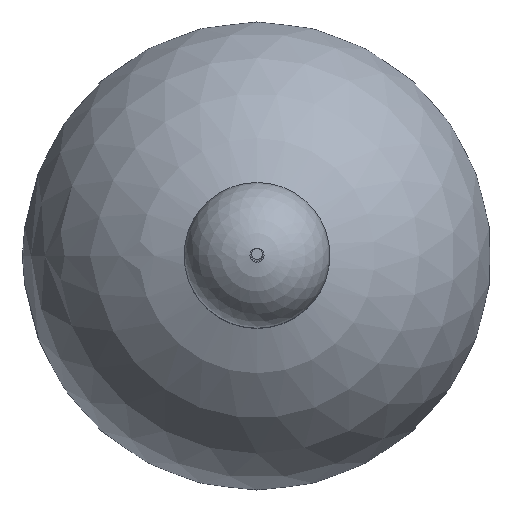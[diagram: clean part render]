
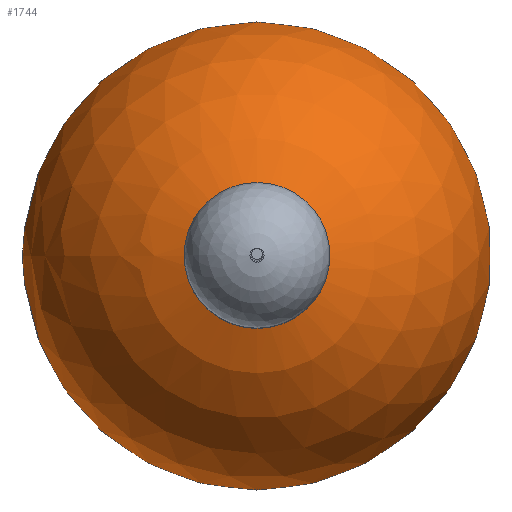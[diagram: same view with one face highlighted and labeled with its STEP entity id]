
A CAD part, top view. The second image highlights one B-rep face of the part: STEP entity #1744.
In plain terms, the highlighted spherical face has radius 95.25 mm.
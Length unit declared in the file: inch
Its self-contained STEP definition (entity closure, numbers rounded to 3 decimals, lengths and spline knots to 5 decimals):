
#516=FACE_OUTER_BOUND('',#615,.T.);
#615=EDGE_LOOP('',(#1226,#1227,#1228,#1229));
#718=CIRCLE('',#1888,1.06);
#719=CIRCLE('',#1889,1.06);
#720=CIRCLE('',#1891,3.75);
#776=VERTEX_POINT('',#2624);
#777=VERTEX_POINT('',#2625);
#778=VERTEX_POINT('',#2630);
#953=EDGE_CURVE('',#776,#777,#718,.T.);
#954=EDGE_CURVE('',#777,#776,#719,.T.);
#956=EDGE_CURVE('',#776,#778,#720,.T.);
#1226=ORIENTED_EDGE('',*,*,#953,.T.);
#1227=ORIENTED_EDGE('',*,*,#954,.T.);
#1228=ORIENTED_EDGE('',*,*,#956,.T.);
#1229=ORIENTED_EDGE('',*,*,#956,.F.);
#1737=SPHERICAL_SURFACE('',#1890,3.75);
#1744=ADVANCED_FACE('',(#516),#1737,.T.);
#1888=AXIS2_PLACEMENT_3D('',#2626,#2087,#2088);
#1889=AXIS2_PLACEMENT_3D('',#2627,#2089,#2090);
#1890=AXIS2_PLACEMENT_3D('',#2629,#2092,#2093);
#1891=AXIS2_PLACEMENT_3D('',#2631,#2094,#2095);
#2087=DIRECTION('center_axis',(0.,0.,-1.));
#2088=DIRECTION('ref_axis',(1.,0.,0.));
#2089=DIRECTION('center_axis',(0.,0.,-1.));
#2090=DIRECTION('ref_axis',(1.,0.,0.));
#2092=DIRECTION('center_axis',(0.,0.,1.));
#2093=DIRECTION('ref_axis',(1.,0.,0.));
#2094=DIRECTION('center_axis',(0.,-1.,0.));
#2095=DIRECTION('ref_axis',(-1.,0.,0.));
#2624=CARTESIAN_POINT('',(-1.06,0.,3.59707));
#2625=CARTESIAN_POINT('',(1.06,0.,3.59707));
#2626=CARTESIAN_POINT('Origin',(0.,0.,3.59707));
#2627=CARTESIAN_POINT('Origin',(0.,0.,3.59707));
#2629=CARTESIAN_POINT('Origin',(0.,0.,0.));
#2630=CARTESIAN_POINT('',(0.,0.,-3.75));
#2631=CARTESIAN_POINT('Origin',(0.,0.,0.));
